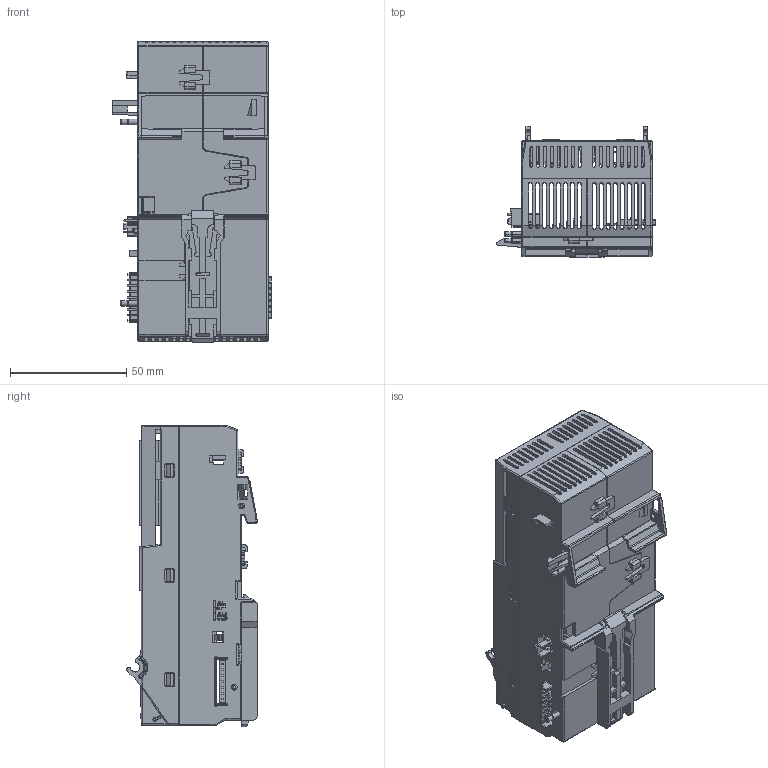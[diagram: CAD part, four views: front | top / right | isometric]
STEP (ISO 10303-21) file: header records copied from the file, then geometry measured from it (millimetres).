
FILE_DESCRIPTION((''),'2;1');
FILE_NAME('2036338','2024-03-21T15:01:59',('t.hampe'),(''),'CREO PARAMETRIC BY PTC INC, 2019292','CREO PARAMETRIC BY PTC INC, 2019292','');
FILE_SCHEMA(('AUTOMOTIVE_DESIGN { 1 0 10303 214 1 1 1 1 }'));
Products named in the file (1): 2036338
Bounding box: 68.35 x 55.97 x 129.52 mm (x, y, z)
Volume: 54556.5 mm3; surface area: 79702.6 mm2
Topology: 10 solids, 10 shells, 4696 faces, 13061 edges, 8340 vertices
Faces by surface type: plane 3128, cylinder 1154, cone 211, torus 115, sphere 40, bspline 35, extrusion 13
Entity records: 240201 total; most frequent: CARTESIAN_POINT 45660, ORIENTED_EDGE 26106, DIRECTION 23008, PRESENTATION_STYLE_ASSIGNMENT 17773, STYLED_ITEM 13077, CURVE_STYLE 13067, EDGE_CURVE 13053, VECTOR 10082
